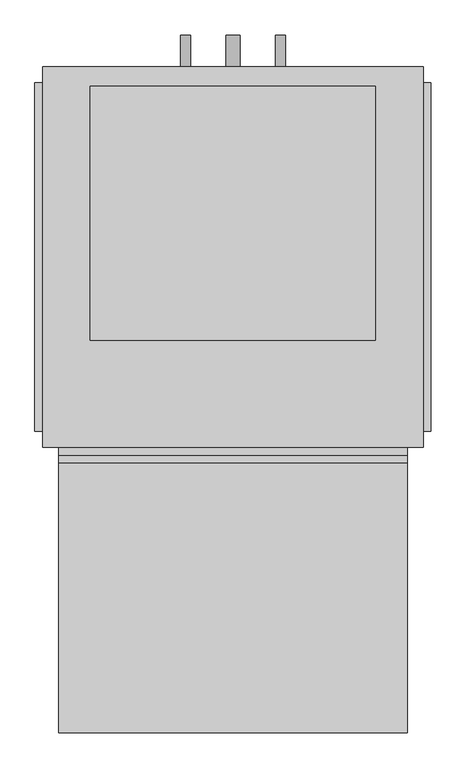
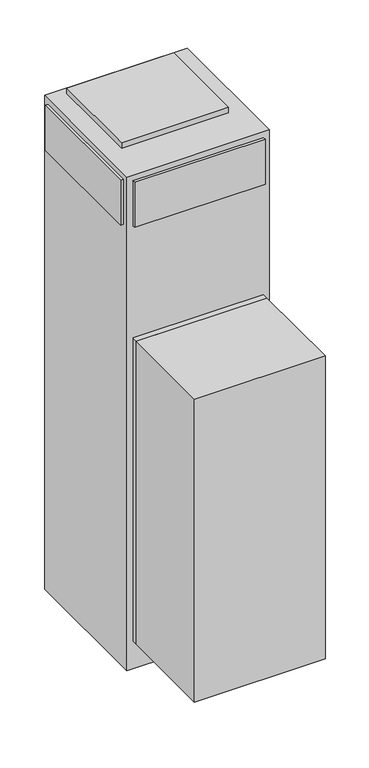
"""IFC4 building model written with IfcOpenShell, lengths in millimetres: proxy geometry, Concealed_Modular_Fan_Coil_Unit_-_MPY_-_IEC_-_2-Pipe_Cool-EHeat_-_NoRisers_2022 : Size 12 - 277v/60Hz/1Ph - 4 Row 8.0kW."""

from ifc_helpers import new_model, si_unit, point, frame, frame_2d, origin, origin_with_axes, place, context, project, spatial, polyline, circle_curve, trimmed, segment, composite_curve, outline, extrude, source, transform, mapped, element, save


def mechanical_equipment_310e72c7(model_context):
    return source(origin(), model_context, "Body", "SweptSolid", [
        extrude(outline(polyline([(1305.3480703, 215.9), (1295.4, 248.0733866), (1437.5709244, 248.0733866), (1414.5489183, 215.9), (1305.3480703, 215.9)])), frame((0.0, -393.7, 0.0), z_axis=(0.0, 1.0, 0.0), x_axis=(0.0, 0.0, 1.0)), (0.0, 0.0, 1.0), 3.175),
        extrude(outline(polyline([(1384.3473557, 254.8317195), (1381.1449632, 280.9131138), (1410.3738042, 280.9131138), (1418.4382193, 254.8317195), (1384.3473557, 254.8317195)])), frame((0.0, -393.7, 0.0), z_axis=(0.0, 1.0, 0.0), x_axis=(0.0, 0.0, 1.0)), (0.0, 0.0, 1.0), 3.175),
        extrude(outline(polyline([(1332.4838288, 280.9131138), (1328.8183279, 254.8317195), (1295.4, 254.8317195), (1304.0342372, 280.9131138), (1332.4838288, 280.9131138)])), frame((0.0, -393.7, 0.0), z_axis=(0.0, 1.0, 0.0), x_axis=(0.0, 0.0, 1.0)), (0.0, 0.0, 1.0), 3.175),
        extrude(outline(polyline([(1371.7989903, 280.9131138), (1374.0808166, 254.8317195), (1338.1432681, 254.8317195), (1340.8845331, 280.9131138), (1371.7989903, 280.9131138)])), frame((0.0, -393.7, 0.0), z_axis=(0.0, 1.0, 0.0), x_axis=(0.0, 0.0, 1.0)), (0.0, 0.0, 1.0), 3.175),
        extrude(outline(polyline([(736.6, -390.525), (736.6, -822.325), (177.8, -822.325), (177.8, -390.525), (736.6, -390.525)])), frame((0.0, 0.0, 127.0), z_axis=(0.0, 0.0, 1.0), x_axis=(1.0, 0.0, 0.0)), (0.0, 0.0, 1.0), 1371.6),
        extrude(outline(composite_curve([segment(trimmed(circle_curve(frame_2d((990.6, 533.4)), 7.9375), [point((990.6, 525.4625))], [point((990.6, 541.3375))], False, "CARTESIAN"), True, "CONTINUOUS"), segment(trimmed(circle_curve(frame_2d((990.6, 533.4)), 7.9375), [point((990.6, 541.3375))], [point((990.6, 525.4625))], False, "CARTESIAN"), True, "CONTINUOUS")], self_intersect=False)), frame((0.0, 244.475, 0.0), z_axis=(0.0, 1.0, 0.0), x_axis=(0.0, 0.0, 1.0)), (0.0, 0.0, 1.0), 50.8),
        extrude(outline(composite_curve([segment(trimmed(circle_curve(frame_2d((990.6, 381.0)), 7.9375), [point((990.6, 373.0625))], [point((990.6, 388.9375))], False, "CARTESIAN"), True, "CONTINUOUS"), segment(trimmed(circle_curve(frame_2d((990.6, 381.0)), 7.9375), [point((990.6, 388.9375))], [point((990.6, 373.0625))], False, "CARTESIAN"), True, "CONTINUOUS")], self_intersect=False)), frame((0.0, 244.475, 0.0), z_axis=(0.0, 1.0, 0.0), x_axis=(0.0, 0.0, 1.0)), (0.0, 0.0, 1.0), 50.8),
        extrude(outline(composite_curve([segment(trimmed(circle_curve(frame_2d((76.2, 457.2)), 11.1125), [point((76.2, 446.0875))], [point((76.2, 468.3125))], False, "CARTESIAN"), True, "CONTINUOUS"), segment(trimmed(circle_curve(frame_2d((76.2, 457.2)), 11.1125), [point((76.2, 468.3125))], [point((76.2, 446.0875))], False, "CARTESIAN"), True, "CONTINUOUS")], self_intersect=False)), frame((0.0, 244.475, 0.0), z_axis=(0.0, 1.0, 0.0), x_axis=(0.0, 0.0, 1.0)), (0.0, 0.0, 1.0), 50.8),
        extrude(outline(polyline([(685.8, 212.725), (685.8, -193.675), (228.6, -193.675), (228.6, 212.725), (685.8, 212.725)])), frame((0.0, 0.0, 2235.2), z_axis=(0.0, 0.0, 1.0), x_axis=(1.0, 0.0, 0.0)), (0.0, 0.0, 1.0), 25.4),
        extrude(outline(polyline([(139.7, -339.725), (139.7, 219.075), (152.4, 219.075), (152.4, -339.725), (139.7, -339.725)])), frame((0.0, 0.0, 2006.6), z_axis=(0.0, 0.0, 1.0), x_axis=(1.0, 0.0, 0.0)), (0.0, 0.0, 1.0), 203.2),
        extrude(outline(polyline([(774.7, 219.075), (774.7, -339.725), (762.0, -339.725), (762.0, 219.075), (774.7, 219.075)])), frame((0.0, 0.0, 2006.6), z_axis=(0.0, 0.0, 1.0), x_axis=(1.0, 0.0, 0.0)), (0.0, 0.0, 1.0), 203.2),
        extrude(outline(polyline([(736.6, -377.825), (177.8, -377.825), (177.8, -365.125), (736.6, -365.125), (736.6, -377.825)])), frame((0.0, 0.0, 2006.6), z_axis=(0.0, 0.0, 1.0), x_axis=(1.0, 0.0, 0.0)), (0.0, 0.0, 1.0), 203.2),
        extrude(outline(polyline([(736.6, -390.525), (177.8, -390.525), (177.8, -365.125), (736.6, -365.125), (736.6, -390.525)])), frame((0.0, 0.0, 127.0), z_axis=(0.0, 0.0, 1.0), x_axis=(1.0, 0.0, 0.0)), (0.0, 0.0, 1.0), 1371.6),
        extrude(outline(polyline([(762.0, 244.475), (762.0, -365.125), (152.4, -365.125), (152.4, 244.475), (762.0, 244.475)])), origin_with_axes(), (0.0, 0.0, 1.0), 2235.2),
    ])


if __name__ == "__main__":
    model = new_model("IFC4")
    model_context = context("Model", 3, world=origin())
    ifc_project = project(units=[si_unit("LENGTHUNIT", "METRE", prefix="MILLI")], contexts=[model_context])
    site = spatial("IfcSite", under=ifc_project)
    building = spatial("IfcBuilding", under=site)
    placement = place(None, origin())
    mechanical_equipment_shape = mechanical_equipment_310e72c7(model_context)
    element("IfcBuildingElementProxy", 1, Name="Concealed_Modular_Fan_Coil_Unit_-_MPY_-_IEC_-_2-Pipe_Cool-EHeat_-_NoRisers_2022 : Size 12 - 277v/60Hz/1Ph - 4 Row 8.0kW", ObjectType="Concealed_Modular_Fan_Coil_Unit_-_MPY_-_IEC_-_2-Pipe_Cool-EHeat_-_NoRisers_2022 : Size 12 - 277v/60Hz/1Ph - 4 Row 8.0kW", at=placement, inside=building, context=model_context, shape_type="MappedRepresentation", body=[
        mapped(mechanical_equipment_shape, transform((0.0, 0.0, 0.0), x_axis=(1.0, 0.0, 0.0), y_axis=(0.0, 1.0, 0.0), z_axis=(0.0, 0.0, 1.0))),
    ])
    save(model, "model.ifc")
